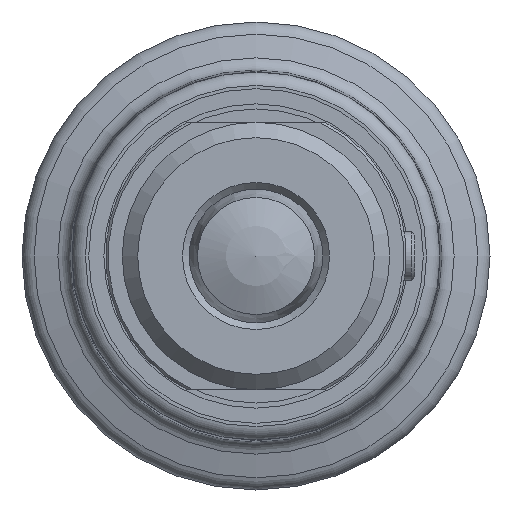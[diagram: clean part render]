
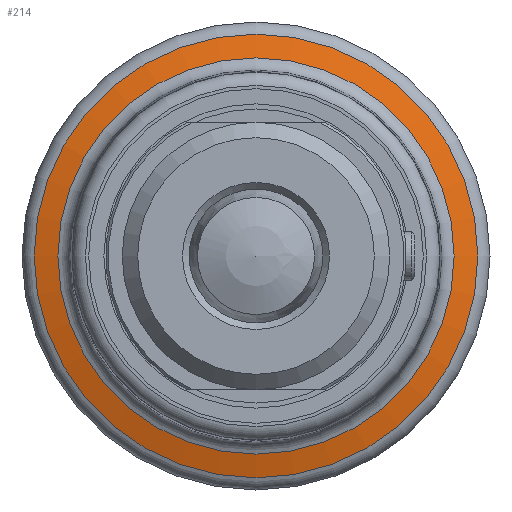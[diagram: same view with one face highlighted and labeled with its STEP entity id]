
A CAD part, left-side view. The second image highlights one B-rep face of the part: STEP entity #214.
In plain terms, the highlighted conical face has half-angle 74.478 degrees and reference radius 13.274 mm.
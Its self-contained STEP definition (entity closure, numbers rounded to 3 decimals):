
#214 = ADVANCED_FACE( '', ( #357, #358 ), #359, .T. );
#357 = FACE_BOUND( '', #516, .T. );
#358 = FACE_OUTER_BOUND( '', #517, .T. );
#359 = CONICAL_SURFACE( '', #518, 13.274, 1.3 );
#516 = EDGE_LOOP( '', ( #802 ) );
#517 = EDGE_LOOP( '', ( #803 ) );
#518 = AXIS2_PLACEMENT_3D( '', #804, #805, #806 );
#802 = ORIENTED_EDGE( '', *, *, #911, .F. );
#803 = ORIENTED_EDGE( '', *, *, #912, .T. );
#804 = CARTESIAN_POINT( '', ( 6.825, 0., 0. ) );
#805 = DIRECTION( '', ( -1., 0., 0. ) );
#806 = DIRECTION( '', ( 0., 0., 1. ) );
#911 = EDGE_CURVE( '', #1036, #1036, #1037, .T. );
#912 = EDGE_CURVE( '', #1038, #1038, #1039, .T. );
#1036 = VERTEX_POINT( '', #1453 );
#1037 = CIRCLE( '', #1454, 11.854 );
#1038 = VERTEX_POINT( '', #1455 );
#1039 = CIRCLE( '', #1456, 13.274 );
#1453 = CARTESIAN_POINT( '', ( 7.22, 0., -11.854 ) );
#1454 = AXIS2_PLACEMENT_3D( '', #1601, #1602, #1603 );
#1455 = CARTESIAN_POINT( '', ( 6.825, 0., -13.274 ) );
#1456 = AXIS2_PLACEMENT_3D( '', #1604, #1605, #1606 );
#1601 = CARTESIAN_POINT( '', ( 7.22, 0., 0. ) );
#1602 = DIRECTION( '', ( 1., 0., 0. ) );
#1603 = DIRECTION( '', ( 0., 0., -1. ) );
#1604 = CARTESIAN_POINT( '', ( 6.825, 0., 0. ) );
#1605 = DIRECTION( '', ( 1., 0., 0. ) );
#1606 = DIRECTION( '', ( 0., 0., -1. ) );
